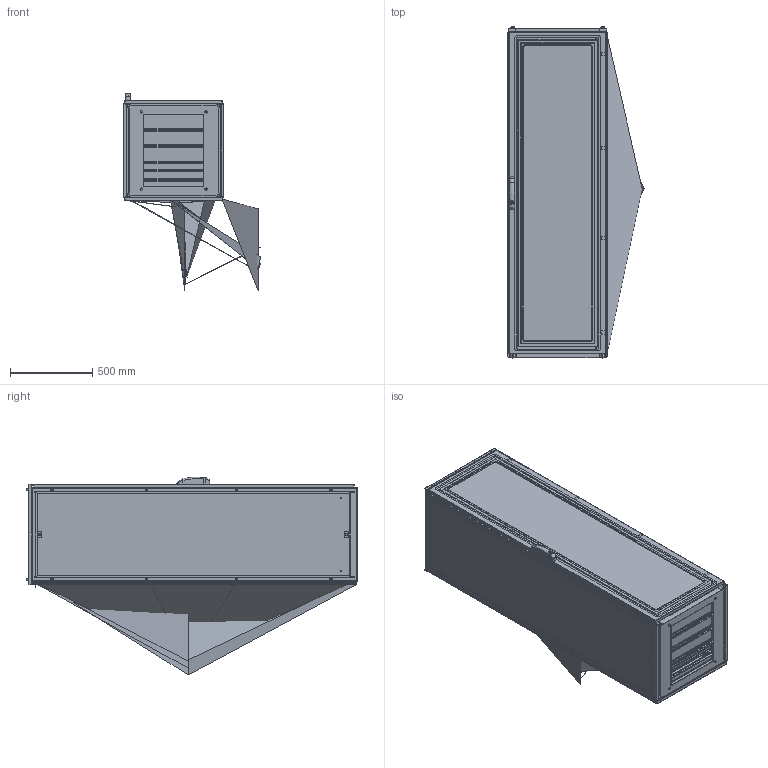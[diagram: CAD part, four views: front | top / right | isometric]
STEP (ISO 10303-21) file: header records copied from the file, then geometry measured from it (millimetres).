
FILE_DESCRIPTION (( 'STEP AP203' ), '1' );
FILE_NAME ('ENUX-062006PVX.STEP', '2025-06-20T12:04:42', ( '' ), ( '' ), 'SwSTEP 2.0', 'SolidWorks 2022', '' );
FILE_SCHEMA (( 'CONFIG_CONTROL_DESIGN' ));
Length unit declared in the file: millimetre
Products named in the file (14): AR_ENUX_Inox_Struttura_0600x2000x0600; AR_ENUX_Inox_Porta_singola_plexi_0600x2000_ANT; AR_ENUX_Inox_Rosetta_13x24x2.5_inox; AR_ENUX_Inox_Vite_tetto_inox; AR_ENUX_Inox_Tetto_0600x0600; AR_ENUX_Inox_Tegolino_0600x0050; AR_ENUX_Inox_montaggio_porta_singlola_plexi_0600x2000_ANT_DX; AR_ENUX_Inox_Retro_singolo_0600x2000; ENUX-062006PVX; AR_ENUX_Inox_Tegolino_0600x0100; AR_ENUX_Inox_Fianco_0600x2000_SX; AR_ENUX_Inox_Plexiglass_porte_0600X2000; AR_ENUX_Inox_Fianco_0600x2000_DX; AR_ENUX_nuova_maniglia_mesan
Assembly tree (22 placements, depth 3):
  ENUX-062006PVX
    AR_ENUX_Inox_Struttura_0600x2000x0600
    AR_ENUX_Inox_Retro_singolo_0600x2000
    AR_ENUX_Inox_montaggio_porta_singlola_plexi_0600x2000_ANT_DX
      AR_ENUX_Inox_Porta_singola_plexi_0600x2000_ANT
      AR_ENUX_Inox_Plexiglass_porte_0600X2000
      AR_ENUX_nuova_maniglia_mesan
    AR_ENUX_Inox_Fianco_0600x2000_SX
    AR_ENUX_Inox_Fianco_0600x2000_DX
    AR_ENUX_Inox_Tetto_0600x0600
    AR_ENUX_Inox_Vite_tetto_inox  x4
    AR_ENUX_Inox_Rosetta_13x24x2.5_inox  x4
    AR_ENUX_Inox_Tegolino_0600x0100  x3
    AR_ENUX_Inox_Tegolino_0600x0050  x2
Bounding box: 835.55 x 2023 x 1206 mm (x, y, z)
Volume: 11998700.4 mm3; surface area: 18708610.8 mm2
Topology: 20 solids, 21 shells, 8867 faces, 24988 edges, 16099 vertices
Faces by surface type: plane 4740, cylinder 3167, bspline 367, torus 289, cone 236, sphere 68
Full cylindrical faces by diameter (mm): 9 x1
Entity records: 324261 total; most frequent: CARTESIAN_POINT 90259, ORIENTED_EDGE 48442, DIRECTION 46379, EDGE_CURVE 24221, LINE 16481, VECTOR 16481, VERTEX_POINT 15718, AXIS2_PLACEMENT_3D 14949
